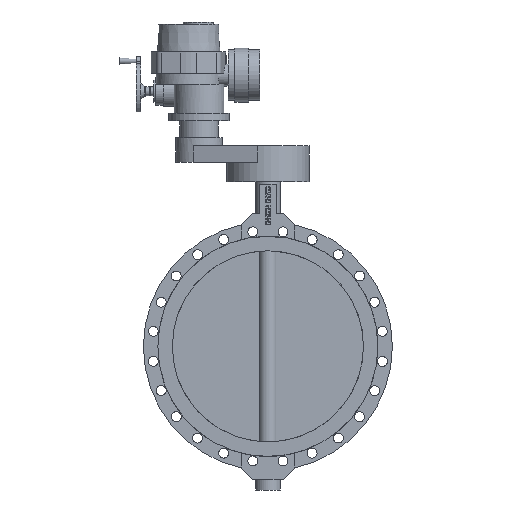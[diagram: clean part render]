
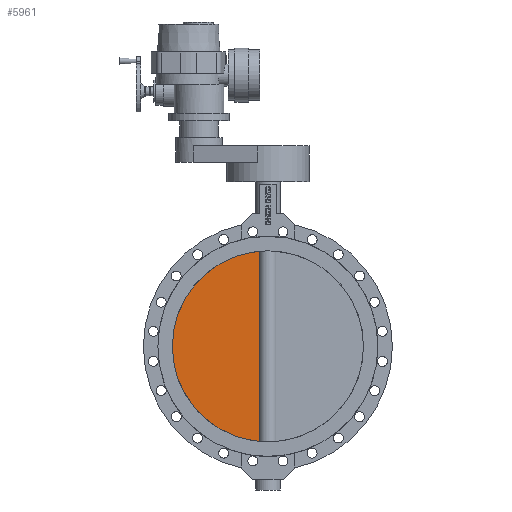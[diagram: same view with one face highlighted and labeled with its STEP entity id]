
A CAD part, left-side view. The second image highlights one B-rep face of the part: STEP entity #5961.
In plain terms, the highlighted planar face has unit normal (-1, 0, 0).
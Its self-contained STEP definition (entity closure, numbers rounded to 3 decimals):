
#5961=ADVANCED_FACE('',(#11691),#11693,.F.);
#11691=FACE_BOUND('',#11692,.T.);
#11692=EDGE_LOOP('',(#15926,#15927,#15928));
#11693=PLANE('',#11694);
#11694=AXIS2_PLACEMENT_3D('',#11695,#11696,#11697);
#11695=CARTESIAN_POINT('',(-15.,0.,0.));
#11696=DIRECTION('',(1.,0.,0.));
#11697=DIRECTION('',(0.,1.,0.));
#15926=ORIENTED_EDGE('',*,*,#18271,.T.);
#15927=ORIENTED_EDGE('',*,*,#17963,.T.);
#15928=ORIENTED_EDGE('',*,*,#17967,.T.);
#17963=EDGE_CURVE('',#21060,#21061,#21062,.F.);
#17967=EDGE_CURVE('',#21061,#21067,#21069,.F.);
#18271=EDGE_CURVE('',#21067,#21060,#21528,.F.);
#21060=VERTEX_POINT('',#28343);
#21061=VERTEX_POINT('',#28344);
#21062=CIRCLE('',#28345,347.5);
#21067=VERTEX_POINT('',#28386);
#21069=CIRCLE('',#28418,347.5);
#21528=LINE('',#29665,#29666);
#28343=CARTESIAN_POINT('',(-15.,29.394,346.255));
#28344=CARTESIAN_POINT('',(-15.,347.5,0.));
#28345=AXIS2_PLACEMENT_3D('',#28346,#28347,#28348);
#28346=CARTESIAN_POINT('',(-15.,0.,0.));
#28347=DIRECTION('',(1.,0.,0.));
#28348=DIRECTION('',(0.,1.,0.));
#28386=CARTESIAN_POINT('',(-15.,29.394,-346.255));
#28418=AXIS2_PLACEMENT_3D('',#28419,#28420,#28421);
#28419=CARTESIAN_POINT('',(-15.,0.,0.));
#28420=DIRECTION('',(1.,0.,0.));
#28421=DIRECTION('',(0.,0.085,-0.996));
#29665=CARTESIAN_POINT('',(-15.,29.394,346.255));
#29666=VECTOR('',#29667,1.);
#29667=DIRECTION('',(0.,0.,-1.));
